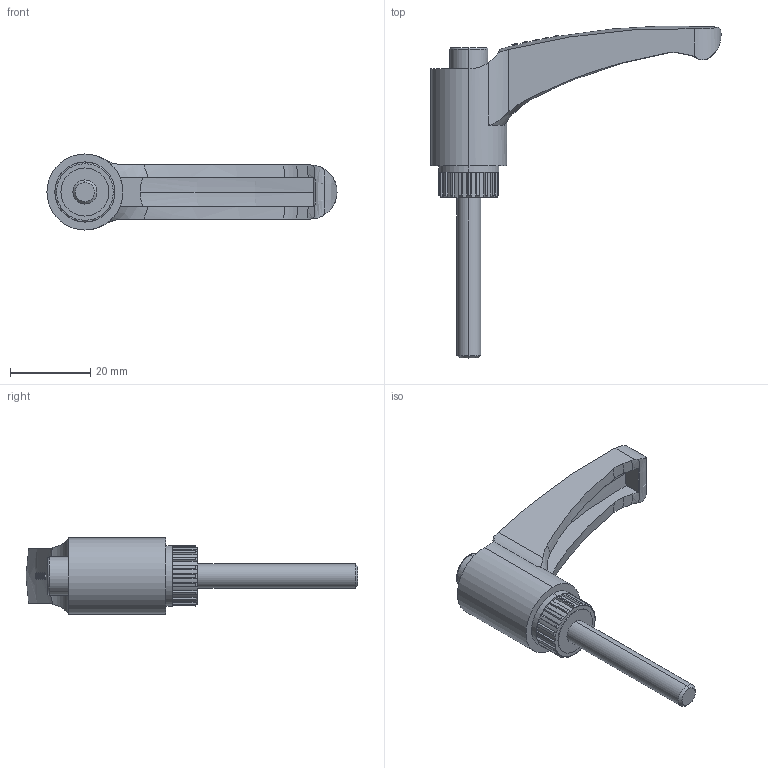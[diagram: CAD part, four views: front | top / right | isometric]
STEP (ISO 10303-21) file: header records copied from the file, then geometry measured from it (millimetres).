
FILE_DESCRIPTION (( 'STEP AP214' ), '1' );
FILE_NAME ('2.9010 Kiinnitysvipu M6 L40 ulkokierteellä.STEP', '2025-09-10T08:10:05', ( '' ), ( '' ), 'SwSTEP 2.0', 'SolidWorks 2025', '' );
FILE_SCHEMA (( 'AUTOMOTIVE_DESIGN' ));
Length unit declared in the file: millimetre
Products named in the file (1): 2.9010 Kiinnitysvipu M6 L40 ulkokierteellä
Bounding box: 72.5 x 82.97 x 19 mm (x, y, z)
Volume: 15015.6 mm3; surface area: 6659.7 mm2
Topology: 1 solids, 1 shells, 171 faces, 481 edges, 307 vertices
Faces by surface type: cylinder 67, plane 54, cone 24, bspline 14, torus 12
Entity records: 6167 total; most frequent: CARTESIAN_POINT 1828, ORIENTED_EDGE 942, DIRECTION 859, EDGE_CURVE 471, AXIS2_PLACEMENT_3D 330, VERTEX_POINT 307, LINE 199, VECTOR 199
